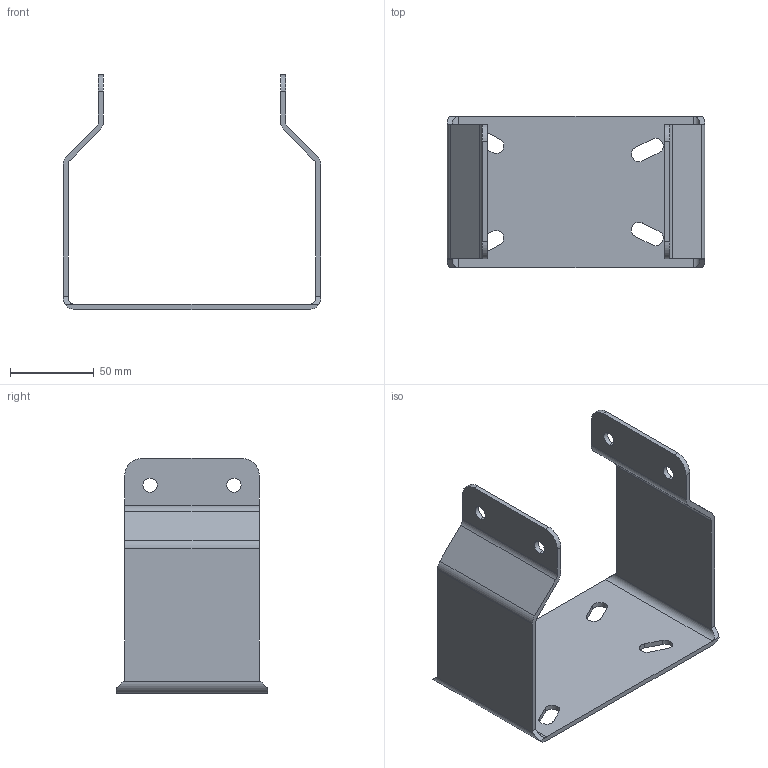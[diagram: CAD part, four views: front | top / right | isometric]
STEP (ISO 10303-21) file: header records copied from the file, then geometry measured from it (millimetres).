
FILE_DESCRIPTION (( 'STEP AP214' ), '1' );
FILE_NAME ('SAHBC 90C.step', '2017-04-05T08:05:48', ( '' ), ( '' ), 'SwSTEP 2.0', 'SolidWorks 2015', '' );
FILE_SCHEMA (( 'AUTOMOTIVE_DESIGN' ));
Length unit declared in the file: millimetre
Products named in the file (1): SAHBC 90C
Bounding box: 153.5 x 90 x 140 mm (x, y, z)
Volume: 107084.6 mm3; surface area: 75408.4 mm2
Topology: 1 solids, 1 shells, 70 faces, 200 edges, 132 vertices
Faces by surface type: cylinder 36, plane 34
Entity records: 2366 total; most frequent: CARTESIAN_POINT 427, DIRECTION 402, ORIENTED_EDGE 400, EDGE_CURVE 200, AXIS2_PLACEMENT_3D 139, VERTEX_POINT 132, LINE 124, VECTOR 124
